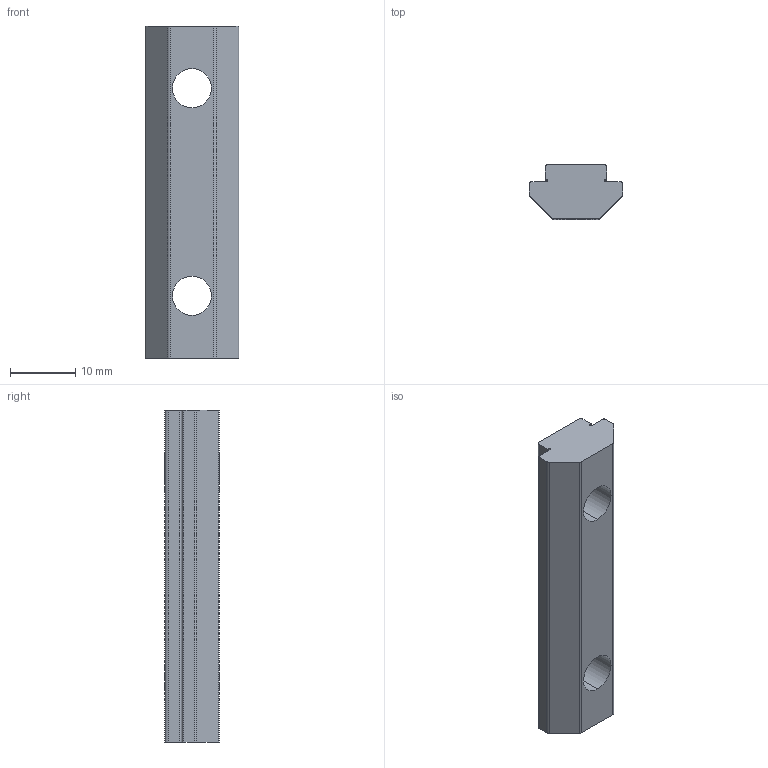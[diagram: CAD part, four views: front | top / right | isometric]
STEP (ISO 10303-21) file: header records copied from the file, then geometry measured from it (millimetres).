
FILE_DESCRIPTION((''),'2;1');
FILE_NAME('639717M','2023-02-28T',('jenni.wallner'),(''),'PRO/ENGINEER BY PARAMETRIC TECHNOLOGY CORPORATION, 2012420','PRO/ENGINEER BY PARAMETRIC TECHNOLOGY CORPORATION, 2012420','');
FILE_SCHEMA(('CONFIG_CONTROL_DESIGN'));
Length unit declared in the file: inch
Products named in the file (1): 639717M
Bounding box: 14.3 x 8.33 x 50.8 mm (x, y, z)
Volume: 4255.2 mm3; surface area: 2496.3 mm2
Topology: 1 solids, 1 shells, 28 faces, 82 edges, 56 vertices
Faces by surface type: plane 14, cylinder 14
Entity records: 998 total; most frequent: DIRECTION 170, CARTESIAN_POINT 166, ORIENTED_EDGE 164, EDGE_CURVE 82, AXIS2_PLACEMENT_3D 60, VERTEX_POINT 56, VECTOR 50, LINE 50
